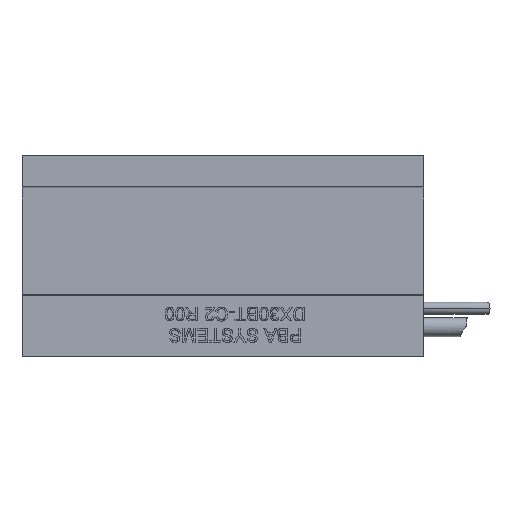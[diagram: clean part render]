
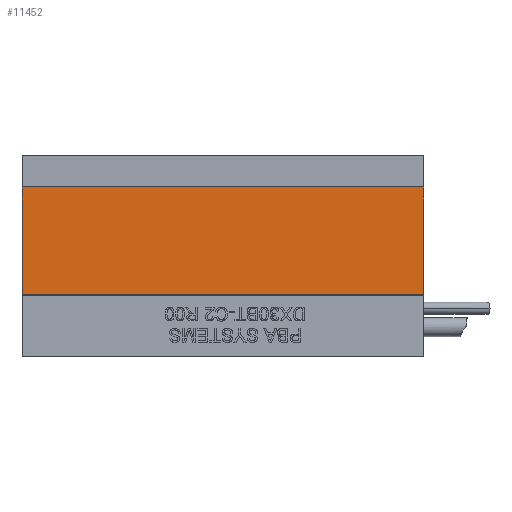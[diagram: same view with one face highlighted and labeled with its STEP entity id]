
A CAD part, top view. The second image highlights one B-rep face of the part: STEP entity #11452.
In plain terms, the highlighted planar face has unit normal (0, 0, 1) as drawn and (-1, 0, 0) by its records, which use the part's own axes.
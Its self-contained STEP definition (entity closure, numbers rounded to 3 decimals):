
#1022 = CARTESIAN_POINT ( 'NONE',  ( -3.6, 42.1, 0. ) ) ;
#2019 = PLANE ( 'NONE',  #10766 ) ;
#3270 = CARTESIAN_POINT ( 'NONE',  ( -3.6, 9.9, 121. ) ) ;
#3648 = CARTESIAN_POINT ( 'NONE',  ( -3.6, 42.1, 121. ) ) ;
#4815 = VERTEX_POINT ( 'NONE', #5805 ) ;
#5167 = DIRECTION ( 'NONE',  ( 1., 0., 0. ) ) ;
#5805 = CARTESIAN_POINT ( 'NONE',  ( -3.6, 9.9, 0. ) ) ;
#6275 = DIRECTION ( 'NONE',  ( 0., 0., -1. ) ) ;
#7827 = EDGE_CURVE ( 'NONE', #20991, #14833, #25471, .T. ) ;
#8172 = CARTESIAN_POINT ( 'NONE',  ( -3.6, 42.1, 121. ) ) ;
#9431 = VERTEX_POINT ( 'NONE', #28235 ) ;
#9927 = VECTOR ( 'NONE', #34202, 1000. ) ;
#10766 = AXIS2_PLACEMENT_3D ( 'NONE', #23005, #5167, #26014 ) ;
#11452 = ADVANCED_FACE ( 'NONE', ( #31895 ), #2019, .F. ) ;
#12817 = LINE ( 'NONE', #3270, #27728 ) ;
#12943 = VECTOR ( 'NONE', #18891, 1000. ) ;
#14823 = EDGE_LOOP ( 'NONE', ( #36765, #18155, #28379, #17012 ) ) ;
#14833 = VERTEX_POINT ( 'NONE', #34615 ) ;
#17012 = ORIENTED_EDGE ( 'NONE', *, *, #23300, .T. ) ;
#17875 = CARTESIAN_POINT ( 'NONE',  ( -3.6, 9.9, 121. ) ) ;
#18155 = ORIENTED_EDGE ( 'NONE', *, *, #21018, .F. ) ;
#18891 = DIRECTION ( 'NONE',  ( 0., 1., 0. ) ) ;
#19012 = LINE ( 'NONE', #1022, #12943 ) ;
#20991 = VERTEX_POINT ( 'NONE', #17875 ) ;
#21018 = EDGE_CURVE ( 'NONE', #20991, #4815, #12817, .T. ) ;
#23005 = CARTESIAN_POINT ( 'NONE',  ( -3.6, 42.1, 121. ) ) ;
#23300 = EDGE_CURVE ( 'NONE', #14833, #9431, #34675, .T. ) ;
#25471 = LINE ( 'NONE', #3648, #26429 ) ;
#26014 = DIRECTION ( 'NONE',  ( 0., 0., 1. ) ) ;
#26429 = VECTOR ( 'NONE', #30126, 1000. ) ;
#27728 = VECTOR ( 'NONE', #6275, 1000. ) ;
#28235 = CARTESIAN_POINT ( 'NONE',  ( -3.6, 42.1, 0. ) ) ;
#28379 = ORIENTED_EDGE ( 'NONE', *, *, #7827, .T. ) ;
#28447 = EDGE_CURVE ( 'NONE', #4815, #9431, #19012, .T. ) ;
#30126 = DIRECTION ( 'NONE',  ( 0., 1., 0. ) ) ;
#31895 = FACE_OUTER_BOUND ( 'NONE', #14823, .T. ) ;
#34202 = DIRECTION ( 'NONE',  ( 0., 0., -1. ) ) ;
#34615 = CARTESIAN_POINT ( 'NONE',  ( -3.6, 42.1, 121. ) ) ;
#34675 = LINE ( 'NONE', #8172, #9927 ) ;
#36765 = ORIENTED_EDGE ( 'NONE', *, *, #28447, .F. ) ;
